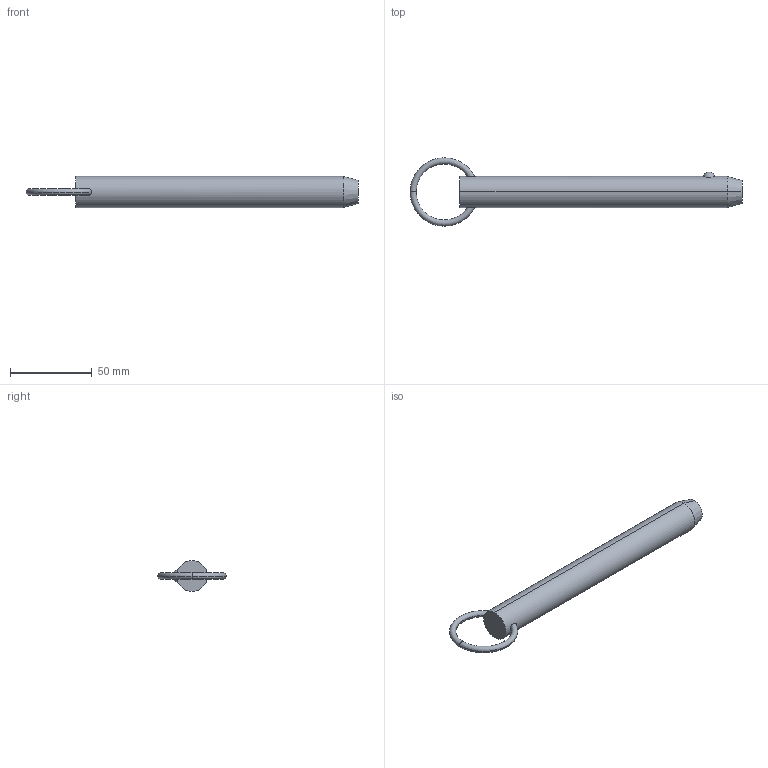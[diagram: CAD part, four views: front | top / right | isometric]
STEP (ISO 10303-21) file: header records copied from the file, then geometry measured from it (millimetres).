
FILE_DESCRIPTION (( 'STEP AP203' ), '1' );
FILE_NAME ('33010.W7555.step', '2024-11-01T10:44:35', ( '' ), ( '' ), 'SwSTEP 2.0', 'SolidWorks 2019', '' );
FILE_SCHEMA (( 'CONFIG_CONTROL_DESIGN' ));
Length unit declared in the file: millimetre
Products named in the file (3): Part2_33010.W7555; Part1_33010.W7555; 33010.W7555
Assembly tree (2 placements, depth 2):
  33010.W7555
    Part1_33010.W7555
    Part2_33010.W7555
Bounding box: 203.65 x 41.91 x 19.05 mm (x, y, z)
Volume: 49818.4 mm3; surface area: 12464.1 mm2
Topology: 2 solids, 2 shells, 16 faces, 31 edges, 18 vertices
Faces by surface type: torus 8, sphere 2, cone 2, cylinder 2, plane 2
Entity records: 893 total; most frequent: CARTESIAN_POINT 250, DIRECTION 88, ORIENTED_EDGE 62, AXIS2_PLACEMENT_3D 42, EDGE_CURVE 31, PERSON_AND_ORGANIZATION 26, CIRCLE 21, CALENDAR_DATE 19
